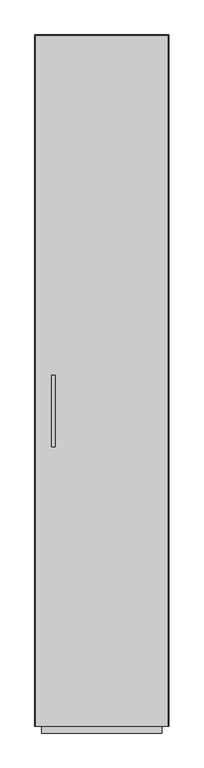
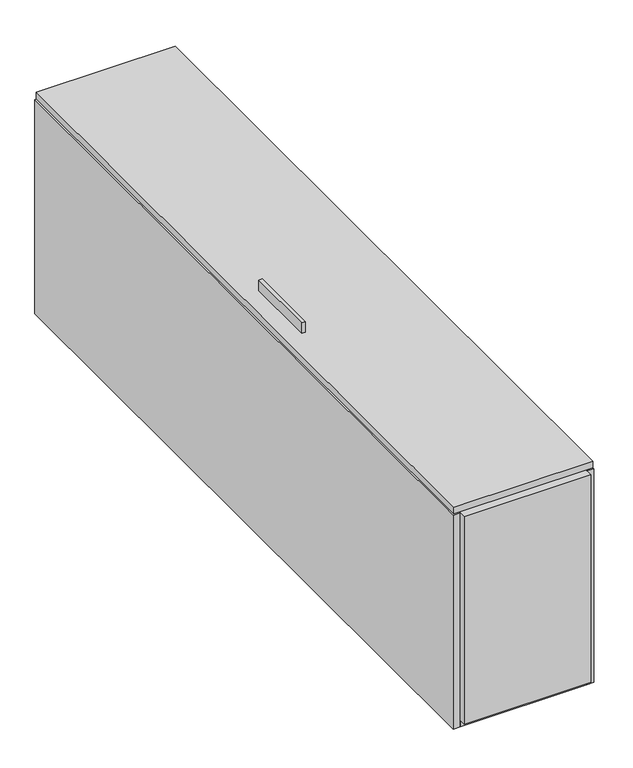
"""IFC4 building model written with IfcOpenShell, lengths in millimetres: proxy geometry, BASYS^OFFICE 2_WARDROBE-15x25x78-RIGHT END."""

from ifc_helpers import new_model, si_unit, frame, origin, origin_with_axes, place, context, project, spatial, polyline, outline, extrude, source, transform, mapped, element, save


def generic_models_0d6153ff(model_context):
    return source(origin(), model_context, "Body", "SweptSolid", [
        extrude(outline(polyline([(58.18125, 1014.8), (58.18125, 812.8), (48.18125, 812.8), (48.18125, 1014.8), (58.18125, 1014.8)])), frame((0.0, 0.0, 635.0), z_axis=(0.0, 0.0, 1.0), x_axis=(1.0, 0.0, 0.0)), (0.0, 0.0, 1.0), 30.0),
        extrude(outline(polyline([(19.05, 1962.15), (19.05, 1981.2), (361.95, 1981.2), (361.95, 1962.15), (19.05, 1962.15)])), frame((0.0, 0.0, 19.05), z_axis=(0.0, 0.0, 1.0), x_axis=(1.0, 0.0, 0.0)), (0.0, 0.0, 1.0), 593.725),
        extrude(outline(polyline([(19.05, 1981.2), (19.05, 19.05), (0.0, 19.05), (0.0, 1981.2), (19.05, 1981.2)])), origin_with_axes(), (0.0, 0.0, 1.0), 612.775),
        extrude(outline(polyline([(2.38125, 19.05), (2.38125, 1978.81875), (378.61875, 1978.81875), (378.61875, 19.05), (2.38125, 19.05)])), frame((0.0, 0.0, 615.95), z_axis=(0.0, 0.0, 1.0), x_axis=(1.0, 0.0, 0.0)), (0.0, 0.0, 1.0), 19.05),
        extrude(outline(polyline([(361.95, 38.1), (361.95, 0.0), (19.05, 0.0), (19.05, 38.1), (361.95, 38.1)])), frame((0.0, 0.0, 19.05), z_axis=(0.0, 0.0, 1.0), x_axis=(1.0, 0.0, 0.0)), (0.0, 0.0, 1.0), 593.725),
        extrude(outline(polyline([(361.95, 19.05), (361.95, 1981.2), (381.0, 1981.2), (381.0, 19.05), (361.95, 19.05)])), origin_with_axes(), (0.0, 0.0, 1.0), 612.775),
        extrude(outline(polyline([(361.95, 1981.2), (361.95, 19.05), (19.05, 19.05), (19.05, 1981.2), (361.95, 1981.2)])), origin_with_axes(), (0.0, 0.0, 1.0), 19.05),
    ])


if __name__ == "__main__":
    model = new_model("IFC4")
    model_context = context("Model", 3, world=origin())
    ifc_project = project(units=[si_unit("LENGTHUNIT", "METRE", prefix="MILLI")], contexts=[model_context])
    site = spatial("IfcSite", under=ifc_project)
    building = spatial("IfcBuilding", under=site)
    placement = place(None, origin())
    generic_models_shape = generic_models_0d6153ff(model_context)
    element("IfcBuildingElementProxy", 1, Name="BASYS^OFFICE 2_WARDROBE-15x25x78-RIGHT END", ObjectType="BASYS^OFFICE 2_WARDROBE-15x25x78-RIGHT END", at=placement, inside=building, context=model_context, shape_type="MappedRepresentation", body=[
        mapped(generic_models_shape, transform((0.0, 0.0, 0.0), x_axis=(1.0, 0.0, 0.0), y_axis=(0.0, 1.0, 0.0), z_axis=(0.0, 0.0, 1.0))),
    ])
    save(model, "model.ifc")
